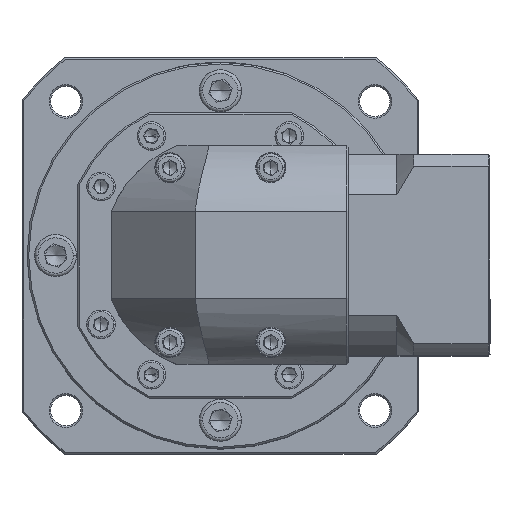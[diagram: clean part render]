
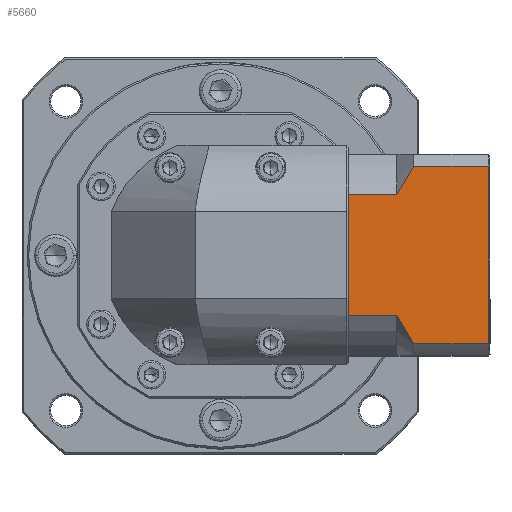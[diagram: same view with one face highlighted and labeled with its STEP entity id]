
A CAD part, top view. The second image highlights one B-rep face of the part: STEP entity #5660.
In plain terms, the highlighted planar face has unit normal (0, 0, 1).
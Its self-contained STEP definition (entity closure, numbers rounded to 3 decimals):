
#1304 = EDGE_CURVE ( 'NONE', #45560, #30018, #132134, .T. ) ;
#1327 = ORIENTED_EDGE ( 'NONE', *, *, #73251, .F. ) ;
#3471 = CARTESIAN_POINT ( 'NONE',  ( -43.324, 95.176, 267.093 ) ) ;
#3888 = CARTESIAN_POINT ( 'NONE',  ( -61.925, 88.106, 267.093 ) ) ;
#5660 = ADVANCED_FACE ( 'NONE', ( #117758 ), #94951, .F. ) ;
#6209 = ORIENTED_EDGE ( 'NONE', *, *, #62216, .T. ) ;
#8055 = ORIENTED_EDGE ( 'NONE', *, *, #23227, .F. ) ;
#14131 = VECTOR ( 'NONE', #122190, 1000. ) ;
#14522 = CARTESIAN_POINT ( 'NONE',  ( -47.425, 52.051, 267.093 ) ) ;
#15147 = DIRECTION ( 'NONE',  ( 0., -1., 0. ) ) ;
#19763 = EDGE_CURVE ( 'NONE', #105710, #30018, #130993, .T. ) ;
#20724 = AXIS2_PLACEMENT_3D ( 'NONE', #64588, #21235, #96828 ) ;
#20855 = ORIENTED_EDGE ( 'NONE', *, *, #1304, .F. ) ;
#21235 = DIRECTION ( 'NONE',  ( 0., 0., -1. ) ) ;
#21443 = VECTOR ( 'NONE', #37421, 1000. ) ;
#23227 = EDGE_CURVE ( 'NONE', #80394, #81786, #34098, .T. ) ;
#29769 = CARTESIAN_POINT ( 'NONE',  ( -20.225, 43.621, 267.093 ) ) ;
#30018 = VERTEX_POINT ( 'NONE', #100163 ) ;
#30780 = VECTOR ( 'NONE', #96083, 1000. ) ;
#34098 = LINE ( 'NONE', #84949, #30780 ) ;
#35919 = EDGE_CURVE ( 'NONE', #105710, #122449, #66994, .T. ) ;
#37421 = DIRECTION ( 'NONE',  ( 0., -1., 0. ) ) ;
#38467 = EDGE_CURVE ( 'NONE', #45560, #81786, #39581, .T. ) ;
#39239 = DIRECTION ( 'NONE',  ( 1., 0., 0. ) ) ;
#39581 = B_SPLINE_CURVE_WITH_KNOTS ( 'NONE', 3,
 ( #121442, #3471, #99941, #79417, #90084, #46317 ),
 .UNSPECIFIED., .F., .F.,
 ( 4, 2, 4 ),
 ( 0.052, 0.057, 0.062 ),
 .UNSPECIFIED. ) ;
#41852 = CARTESIAN_POINT ( 'NONE',  ( -46.675, 50.594, 267.093 ) ) ;
#43405 = LINE ( 'NONE', #84618, #135111 ) ;
#44132 = EDGE_LOOP ( 'NONE', ( #79884, #95099, #20855, #71331, #8055, #6209, #115082, #46477, #1327, #47791 ) ) ;
#45560 = VERTEX_POINT ( 'NONE', #130551 ) ;
#46317 = CARTESIAN_POINT ( 'NONE',  ( -47.425, 88.106, 267.093 ) ) ;
#46477 = ORIENTED_EDGE ( 'NONE', *, *, #115944, .T. ) ;
#47791 = ORIENTED_EDGE ( 'NONE', *, *, #92184, .T. ) ;
#52817 = DIRECTION ( 'NONE',  ( -1., 0., 0. ) ) ;
#56272 = VERTEX_POINT ( 'NONE', #14522 ) ;
#57238 = VERTEX_POINT ( 'NONE', #59769 ) ;
#57659 = CARTESIAN_POINT ( 'NONE',  ( -61.925, 100.078, 267.093 ) ) ;
#59769 = CARTESIAN_POINT ( 'NONE',  ( -61.925, 87.115, 267.093 ) ) ;
#62216 = EDGE_CURVE ( 'NONE', #80394, #57238, #119024, .T. ) ;
#64588 = CARTESIAN_POINT ( 'NONE',  ( -19.725, 100.078, 267.093 ) ) ;
#65805 = CARTESIAN_POINT ( 'NONE',  ( -61.925, 53.042, 267.093 ) ) ;
#66644 = DIRECTION ( 'NONE',  ( 0., -1., 0. ) ) ;
#66994 = LINE ( 'NONE', #134878, #135443 ) ;
#71331 = ORIENTED_EDGE ( 'NONE', *, *, #38467, .T. ) ;
#73251 = EDGE_CURVE ( 'NONE', #56272, #138129, #43405, .T. ) ;
#73939 = CARTESIAN_POINT ( 'NONE',  ( -45.874, 49.169, 267.093 ) ) ;
#74027 = LINE ( 'NONE', #109194, #99085 ) ;
#74411 = CARTESIAN_POINT ( 'NONE',  ( -44.2, 46.363, 267.093 ) ) ;
#79417 = CARTESIAN_POINT ( 'NONE',  ( -45.873, 90.99, 267.093 ) ) ;
#79884 = ORIENTED_EDGE ( 'NONE', *, *, #35919, .F. ) ;
#80394 = VERTEX_POINT ( 'NONE', #3888 ) ;
#81786 = VERTEX_POINT ( 'NONE', #102063 ) ;
#84618 = CARTESIAN_POINT ( 'NONE',  ( -47.425, 52.051, 267.093 ) ) ;
#84949 = CARTESIAN_POINT ( 'NONE',  ( -47.425, 88.106, 267.093 ) ) ;
#90084 = CARTESIAN_POINT ( 'NONE',  ( -46.677, 89.558, 267.093 ) ) ;
#92184 = EDGE_CURVE ( 'NONE', #56272, #122449, #109065, .T. ) ;
#94951 = PLANE ( 'NONE',  #20724 ) ;
#94978 = CARTESIAN_POINT ( 'NONE',  ( -47.425, 52.051, 267.093 ) ) ;
#95099 = ORIENTED_EDGE ( 'NONE', *, *, #19763, .T. ) ;
#96083 = DIRECTION ( 'NONE',  ( 1., 0., 0. ) ) ;
#96828 = DIRECTION ( 'NONE',  ( 1., 0., 0. ) ) ;
#98290 = LINE ( 'NONE', #102260, #21443 ) ;
#99085 = VECTOR ( 'NONE', #66644, 1000. ) ;
#99924 = CARTESIAN_POINT ( 'NONE',  ( -42.425, 43.621, 267.093 ) ) ;
#99941 = CARTESIAN_POINT ( 'NONE',  ( -44.198, 93.797, 267.093 ) ) ;
#100163 = CARTESIAN_POINT ( 'NONE',  ( -20.225, 96.536, 267.093 ) ) ;
#102063 = CARTESIAN_POINT ( 'NONE',  ( -47.425, 88.106, 267.093 ) ) ;
#102260 = CARTESIAN_POINT ( 'NONE',  ( -61.925, 100.078, 267.093 ) ) ;
#105710 = VERTEX_POINT ( 'NONE', #29769 ) ;
#106470 = CARTESIAN_POINT ( 'NONE',  ( -61.925, 52.051, 267.093 ) ) ;
#109065 = B_SPLINE_CURVE_WITH_KNOTS ( 'NONE', 3,
 ( #94978, #41852, #73939, #74411, #117395, #128075 ),
 .UNSPECIFIED., .F., .F.,
 ( 4, 2, 4 ),
 ( 0.1, 0.104, 0.109 ),
 .UNSPECIFIED. ) ;
#109194 = CARTESIAN_POINT ( 'NONE',  ( -61.925, 100.078, 267.093 ) ) ;
#112306 = VECTOR ( 'NONE', #15147, 1000. ) ;
#113037 = DIRECTION ( 'NONE',  ( -1., 0., 0. ) ) ;
#114817 = CARTESIAN_POINT ( 'NONE',  ( -47.425, 96.536, 267.093 ) ) ;
#115082 = ORIENTED_EDGE ( 'NONE', *, *, #122503, .T. ) ;
#115944 = EDGE_CURVE ( 'NONE', #131897, #138129, #74027, .T. ) ;
#117395 = CARTESIAN_POINT ( 'NONE',  ( -43.326, 44.984, 267.093 ) ) ;
#117758 = FACE_OUTER_BOUND ( 'NONE', #44132, .T. ) ;
#119024 = LINE ( 'NONE', #57659, #112306 ) ;
#121282 = CARTESIAN_POINT ( 'NONE',  ( -20.225, 100.078, 267.093 ) ) ;
#121442 = CARTESIAN_POINT ( 'NONE',  ( -42.425, 96.536, 267.093 ) ) ;
#122190 = DIRECTION ( 'NONE',  ( 0., 1., 0. ) ) ;
#122449 = VERTEX_POINT ( 'NONE', #99924 ) ;
#122503 = EDGE_CURVE ( 'NONE', #57238, #131897, #98290, .T. ) ;
#125451 = VECTOR ( 'NONE', #39239, 1000. ) ;
#128075 = CARTESIAN_POINT ( 'NONE',  ( -42.425, 43.621, 267.093 ) ) ;
#130551 = CARTESIAN_POINT ( 'NONE',  ( -42.425, 96.536, 267.093 ) ) ;
#130993 = LINE ( 'NONE', #121282, #14131 ) ;
#131897 = VERTEX_POINT ( 'NONE', #65805 ) ;
#132134 = LINE ( 'NONE', #114817, #125451 ) ;
#134878 = CARTESIAN_POINT ( 'NONE',  ( -47.425, 43.621, 267.093 ) ) ;
#135111 = VECTOR ( 'NONE', #52817, 1000. ) ;
#135443 = VECTOR ( 'NONE', #113037, 1000. ) ;
#138129 = VERTEX_POINT ( 'NONE', #106470 ) ;
